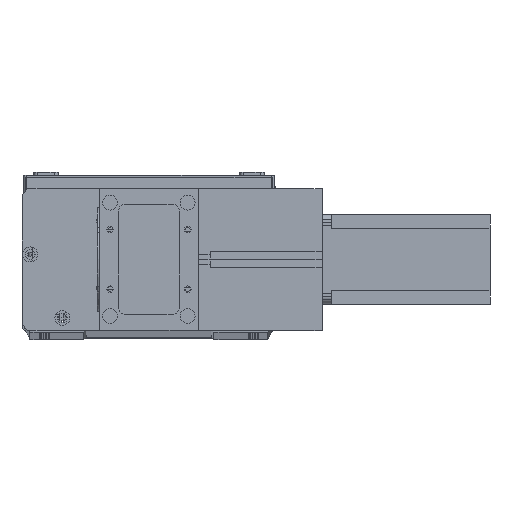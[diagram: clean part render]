
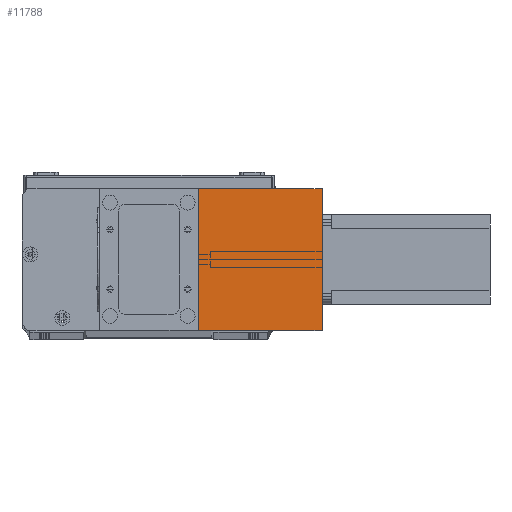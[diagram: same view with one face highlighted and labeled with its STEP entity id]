
A CAD part, top view. The second image highlights one B-rep face of the part: STEP entity #11788.
In plain terms, the highlighted planar face has unit normal (0, 0, 1) as drawn and (1, 0, 0) by its records, which use the part's own axes.
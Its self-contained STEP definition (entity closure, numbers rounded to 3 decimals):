
#76 = CARTESIAN_POINT ( 'NONE',  ( 82., 95., 83. ) ) ;
#246 = ORIENTED_EDGE ( 'NONE', *, *, #21363, .F. ) ;
#1588 = FACE_OUTER_BOUND ( 'NONE', #19520, .T. ) ;
#2419 = VERTEX_POINT ( 'NONE', #19113 ) ;
#2492 = DIRECTION ( 'NONE',  ( 0., 0., 1. ) ) ;
#2517 = DIRECTION ( 'NONE',  ( -1., 0., 0. ) ) ;
#2583 = PLANE ( 'NONE',  #8868 ) ;
#2769 = CARTESIAN_POINT ( 'NONE',  ( 82., 0., 83. ) ) ;
#3423 = VERTEX_POINT ( 'NONE', #76 ) ;
#3971 = VECTOR ( 'NONE', #4857, 1000. ) ;
#4090 = EDGE_CURVE ( 'NONE', #2419, #3423, #17616, .T. ) ;
#4857 = DIRECTION ( 'NONE',  ( 0., 1., 0. ) ) ;
#5068 = CARTESIAN_POINT ( 'NONE',  ( 82., 0., 83. ) ) ;
#5506 = LINE ( 'NONE', #21820, #3971 ) ;
#8745 = VECTOR ( 'NONE', #10860, 1000. ) ;
#8868 = AXIS2_PLACEMENT_3D ( 'NONE', #2769, #2517, #2492 ) ;
#9514 = LINE ( 'NONE', #22890, #8745 ) ;
#10338 = VECTOR ( 'NONE', #22629, 1000. ) ;
#10740 = ORIENTED_EDGE ( 'NONE', *, *, #4090, .F. ) ;
#10860 = DIRECTION ( 'NONE',  ( 0., 0., -1. ) ) ;
#11294 = VERTEX_POINT ( 'NONE', #13339 ) ;
#11788 = ADVANCED_FACE ( 'NONE', ( #1588 ), #2583, .F. ) ;
#12034 = CARTESIAN_POINT ( 'NONE',  ( 82., 95., 0. ) ) ;
#12743 = ORIENTED_EDGE ( 'NONE', *, *, #24903, .T. ) ;
#13339 = CARTESIAN_POINT ( 'NONE',  ( 82., 0., 0. ) ) ;
#13710 = ORIENTED_EDGE ( 'NONE', *, *, #29759, .T. ) ;
#17616 = LINE ( 'NONE', #22523, #10338 ) ;
#18147 = VERTEX_POINT ( 'NONE', #12034 ) ;
#19113 = CARTESIAN_POINT ( 'NONE',  ( 82., 0., 83. ) ) ;
#19520 = EDGE_LOOP ( 'NONE', ( #13710, #246, #10740, #12743 ) ) ;
#19748 = DIRECTION ( 'NONE',  ( 0., 0., -1. ) ) ;
#21363 = EDGE_CURVE ( 'NONE', #3423, #18147, #9514, .T. ) ;
#21820 = CARTESIAN_POINT ( 'NONE',  ( 82., 0., 0. ) ) ;
#22523 = CARTESIAN_POINT ( 'NONE',  ( 82., 0., 83. ) ) ;
#22629 = DIRECTION ( 'NONE',  ( 0., 1., 0. ) ) ;
#22890 = CARTESIAN_POINT ( 'NONE',  ( 82., 95., 83. ) ) ;
#24903 = EDGE_CURVE ( 'NONE', #2419, #11294, #31044, .T. ) ;
#29759 = EDGE_CURVE ( 'NONE', #11294, #18147, #5506, .T. ) ;
#30321 = VECTOR ( 'NONE', #19748, 1000. ) ;
#31044 = LINE ( 'NONE', #5068, #30321 ) ;
